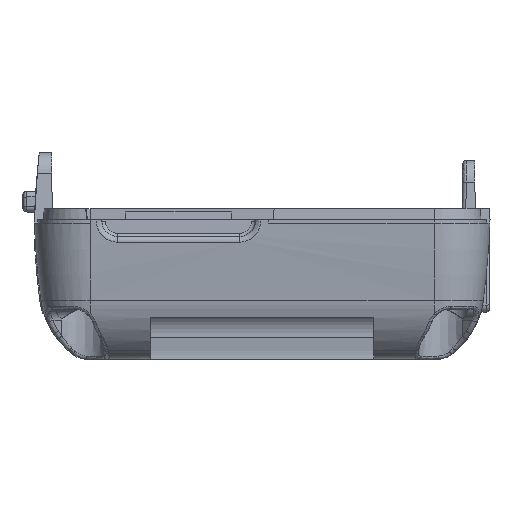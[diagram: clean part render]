
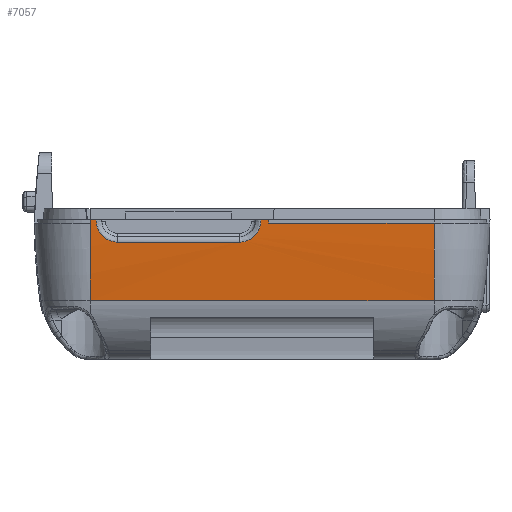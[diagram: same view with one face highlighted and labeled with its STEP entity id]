
A CAD part, front view. The second image highlights one B-rep face of the part: STEP entity #7057.
In plain terms, the highlighted cylindrical face has radius 80 mm (diameter 160 mm), a partial arc.
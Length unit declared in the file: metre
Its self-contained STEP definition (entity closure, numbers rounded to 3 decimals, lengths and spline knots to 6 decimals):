
#37 = EDGE_CURVE ( 'NONE', #17384, #32473, #24553, .T. ) ;
#397 = CARTESIAN_POINT ( 'NONE',  ( 0.030653, 0.010543, 0.013466 ) ) ;
#604 = CARTESIAN_POINT ( 'NONE',  ( -0.049194, 0.0155, -0.0154 ) ) ;
#1110 = CARTESIAN_POINT ( 'NONE',  ( 0.030648, 0.010492, 0.002028 ) ) ;
#1171 = DIRECTION ( 'NONE',  ( 0., 0., 1. ) ) ;
#2367 = B_SPLINE_CURVE_WITH_KNOTS ( 'NONE', 3,
 ( #31141, #28653, #25151, #12482, #6280, #40724, #6076, #24758, #2749, #9581, #40925, #19349 ),
 .UNSPECIFIED., .F., .F.,
 ( 4, 2, 2, 2, 2, 4 ),
 ( 0., 0.125, 0.25, 0.5, 0.75, 1. ),
 .UNSPECIFIED. ) ;
#2399 = VERTEX_POINT ( 'NONE', #39160 ) ;
#2749 = CARTESIAN_POINT ( 'NONE',  ( 0.030665, 0.010749, 0.001039 ) ) ;
#2770 = EDGE_LOOP ( 'NONE', ( #13209, #22686, #22537, #33910, #27163, #36310, #30829, #21470, #15130, #33211 ) ) ;
#2919 = CARTESIAN_POINT ( 'NONE',  ( 0.030674, 0.010895, 0.014155 ) ) ;
#3490 = CARTESIAN_POINT ( 'NONE',  ( 0.030648, 0.010492, 0.012956 ) ) ;
#3732 = CYLINDRICAL_SURFACE ( 'NONE', #23095, 0.08 ) ;
#3959 = AXIS2_PLACEMENT_3D ( 'NONE', #604, #13679, #13273 ) ;
#5123 = DIRECTION ( 'NONE',  ( 0.999, -0.036, 0. ) ) ;
#6076 = CARTESIAN_POINT ( 'NONE',  ( 0.030695, 0.011274, 0.00047 ) ) ;
#6280 = CARTESIAN_POINT ( 'NONE',  ( 0.030724, 0.011861, 0.0002 ) ) ;
#6639 = CARTESIAN_POINT ( 'NONE',  ( 0.03074, 0.012239, 0.014866 ) ) ;
#6646 = VECTOR ( 'NONE', #23895, 1. ) ;
#6865 = EDGE_CURVE ( 'NONE', #18036, #34749, #35097, .T. ) ;
#7057 = ADVANCED_FACE ( 'NONE', ( #13681 ), #3732, .T. ) ;
#7272 = AXIS2_PLACEMENT_3D ( 'NONE', #15083, #27719, #5123 ) ;
#7417 = CARTESIAN_POINT ( 'NONE',  ( 0.03075, 0.0125, -0.0154 ) ) ;
#7672 = DIRECTION ( 'NONE',  ( 0., 0., 1. ) ) ;
#7927 = DIRECTION ( 'NONE',  ( 0., 0., -1. ) ) ;
#8414 = EDGE_CURVE ( 'NONE', #14462, #22122, #2367, .T. ) ;
#8961 = CARTESIAN_POINT ( 'NONE',  ( 0.03075, 0.0125, 0.01485 ) ) ;
#9006 = B_SPLINE_CURVE_WITH_KNOTS ( 'NONE', 1,
 ( #3490, #16154 ),
 .UNSPECIFIED., .F., .F.,
 ( 2, 2 ),
 ( 0., 1. ),
 .UNSPECIFIED. ) ;
#9581 = CARTESIAN_POINT ( 'NONE',  ( 0.030653, 0.010543, 0.001517 ) ) ;
#10028 = AXIS2_PLACEMENT_3D ( 'NONE', #40663, #16588, #19905 ) ;
#11520 = CARTESIAN_POINT ( 'NONE',  ( 0.030146, 0.005245, 0.0154 ) ) ;
#12058 = VECTOR ( 'NONE', #36796, 1. ) ;
#12482 = CARTESIAN_POINT ( 'NONE',  ( 0.030729, 0.011987, 0.000168 ) ) ;
#13209 = ORIENTED_EDGE ( 'NONE', *, *, #37536, .T. ) ;
#13273 = DIRECTION ( 'NONE',  ( 1., 0., 0. ) ) ;
#13679 = DIRECTION ( 'NONE',  ( 0., 0., 1. ) ) ;
#13681 = FACE_OUTER_BOUND ( 'NONE', #2770, .T. ) ;
#14462 = VERTEX_POINT ( 'NONE', #37600 ) ;
#14651 = CIRCLE ( 'NONE', #10028, 0.08 ) ;
#15083 = CARTESIAN_POINT ( 'NONE',  ( -0.049194, 0.0155, 0.0154 ) ) ;
#15130 = ORIENTED_EDGE ( 'NONE', *, *, #38466, .F. ) ;
#16154 = CARTESIAN_POINT ( 'NONE',  ( 0.030648, 0.010492, 0.002028 ) ) ;
#16588 = DIRECTION ( 'NONE',  ( 0., 0., 1. ) ) ;
#17384 = VERTEX_POINT ( 'NONE', #25196 ) ;
#17466 = CARTESIAN_POINT ( 'NONE',  ( 0.03075, 0.0125, -0.0154 ) ) ;
#18036 = VERTEX_POINT ( 'NONE', #32861 ) ;
#19349 = CARTESIAN_POINT ( 'NONE',  ( 0.030648, 0.010492, 0.002028 ) ) ;
#19512 = CARTESIAN_POINT ( 'NONE',  ( 0.030706, 0.011491, 0.014649 ) ) ;
#19905 = DIRECTION ( 'NONE',  ( 1., 0., 0. ) ) ;
#21436 = VERTEX_POINT ( 'NONE', #31820 ) ;
#21470 = ORIENTED_EDGE ( 'NONE', *, *, #38775, .T. ) ;
#21843 = CARTESIAN_POINT ( 'NONE',  ( 0.030738, 0.012201, -0.020084 ) ) ;
#21873 = EDGE_CURVE ( 'NONE', #32473, #2399, #14651, .T. ) ;
#22122 = VERTEX_POINT ( 'NONE', #1110 ) ;
#22537 = ORIENTED_EDGE ( 'NONE', *, *, #21873, .T. ) ;
#22648 = VERTEX_POINT ( 'NONE', #36535 ) ;
#22686 = ORIENTED_EDGE ( 'NONE', *, *, #37, .T. ) ;
#23095 = AXIS2_PLACEMENT_3D ( 'NONE', #36098, #7672, #29028 ) ;
#23195 = CIRCLE ( 'NONE', #3959, 0.08 ) ;
#23201 = LINE ( 'NONE', #7417, #39748 ) ;
#23895 = DIRECTION ( 'NONE',  ( 0., 0., 1. ) ) ;
#24553 = LINE ( 'NONE', #21843, #12058 ) ;
#24758 = CARTESIAN_POINT ( 'NONE',  ( 0.030674, 0.010895, 0.000828 ) ) ;
#25151 = CARTESIAN_POINT ( 'NONE',  ( 0.03074, 0.012241, 0.000131 ) ) ;
#25153 = CIRCLE ( 'NONE', #7272, 0.08 ) ;
#25196 = CARTESIAN_POINT ( 'NONE',  ( 0.030738, 0.012201, -0.0154 ) ) ;
#25314 = CARTESIAN_POINT ( 'NONE',  ( 0.030665, 0.010749, 0.013946 ) ) ;
#27137 = EDGE_CURVE ( 'NONE', #40685, #21436, #29880, .T. ) ;
#27163 = ORIENTED_EDGE ( 'NONE', *, *, #8414, .T. ) ;
#27597 = LINE ( 'NONE', #17466, #6646 ) ;
#27719 = DIRECTION ( 'NONE',  ( 0., 0., 1. ) ) ;
#28653 = CARTESIAN_POINT ( 'NONE',  ( 0.030745, 0.01237, 0.000125 ) ) ;
#29028 = DIRECTION ( 'NONE',  ( 1., 0., 0. ) ) ;
#29875 = EDGE_CURVE ( 'NONE', #18036, #22122, #9006, .T. ) ;
#29880 = LINE ( 'NONE', #36352, #31329 ) ;
#30829 = ORIENTED_EDGE ( 'NONE', *, *, #6865, .T. ) ;
#31141 = CARTESIAN_POINT ( 'NONE',  ( 0.03075, 0.0125, 0.000133 ) ) ;
#31306 = CARTESIAN_POINT ( 'NONE',  ( 0.030649, 0.010492, 0.013217 ) ) ;
#31329 = VECTOR ( 'NONE', #7927, 1. ) ;
#31820 = CARTESIAN_POINT ( 'NONE',  ( 0.030146, 0.005245, -0.0154 ) ) ;
#32136 = CARTESIAN_POINT ( 'NONE',  ( 0.03075, 0.0125, 0.01485 ) ) ;
#32473 = VERTEX_POINT ( 'NONE', #37737 ) ;
#32861 = CARTESIAN_POINT ( 'NONE',  ( 0.030648, 0.010492, 0.012956 ) ) ;
#33211 = ORIENTED_EDGE ( 'NONE', *, *, #27137, .T. ) ;
#33910 = ORIENTED_EDGE ( 'NONE', *, *, #37720, .T. ) ;
#34749 = VERTEX_POINT ( 'NONE', #8961 ) ;
#35066 = CARTESIAN_POINT ( 'NONE',  ( 0.030729, 0.011985, 0.014829 ) ) ;
#35097 = B_SPLINE_CURVE_WITH_KNOTS ( 'NONE', 3,
 ( #39878, #31306, #397, #25314, #2919, #41094, #19512, #35066, #6639, #32136 ),
 .UNSPECIFIED., .F., .F.,
 ( 4, 2, 2, 2, 4 ),
 ( 0., 0.25, 0.5, 0.75, 1. ),
 .UNSPECIFIED. ) ;
#36098 = CARTESIAN_POINT ( 'NONE',  ( -0.049194, 0.0155, -0.0154 ) ) ;
#36310 = ORIENTED_EDGE ( 'NONE', *, *, #29875, .F. ) ;
#36352 = CARTESIAN_POINT ( 'NONE',  ( 0.030146, 0.005245, -0.0154 ) ) ;
#36535 = CARTESIAN_POINT ( 'NONE',  ( 0.03075, 0.0125, 0.0154 ) ) ;
#36796 = DIRECTION ( 'NONE',  ( 0., 0., 1. ) ) ;
#37536 = EDGE_CURVE ( 'NONE', #21436, #17384, #23195, .T. ) ;
#37600 = CARTESIAN_POINT ( 'NONE',  ( 0.03075, 0.0125, 0.000133 ) ) ;
#37720 = EDGE_CURVE ( 'NONE', #2399, #14462, #23201, .T. ) ;
#37737 = CARTESIAN_POINT ( 'NONE',  ( 0.030738, 0.012201, -0.000567 ) ) ;
#38466 = EDGE_CURVE ( 'NONE', #40685, #22648, #25153, .T. ) ;
#38775 = EDGE_CURVE ( 'NONE', #34749, #22648, #27597, .T. ) ;
#39160 = CARTESIAN_POINT ( 'NONE',  ( 0.03075, 0.0125, -0.000567 ) ) ;
#39748 = VECTOR ( 'NONE', #1171, 1. ) ;
#39878 = CARTESIAN_POINT ( 'NONE',  ( 0.030648, 0.010492, 0.012956 ) ) ;
#40663 = CARTESIAN_POINT ( 'NONE',  ( -0.049194, 0.0155, -0.000567 ) ) ;
#40685 = VERTEX_POINT ( 'NONE', #11520 ) ;
#40724 = CARTESIAN_POINT ( 'NONE',  ( 0.030706, 0.011492, 0.000334 ) ) ;
#40925 = CARTESIAN_POINT ( 'NONE',  ( 0.030649, 0.010492, 0.001767 ) ) ;
#41094 = CARTESIAN_POINT ( 'NONE',  ( 0.030695, 0.011274, 0.014515 ) ) ;
